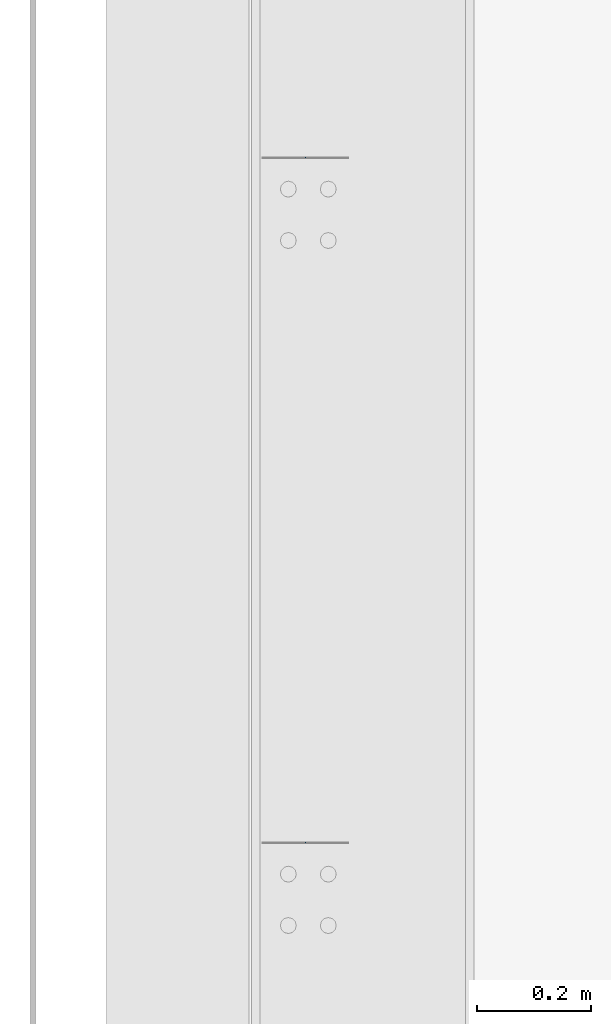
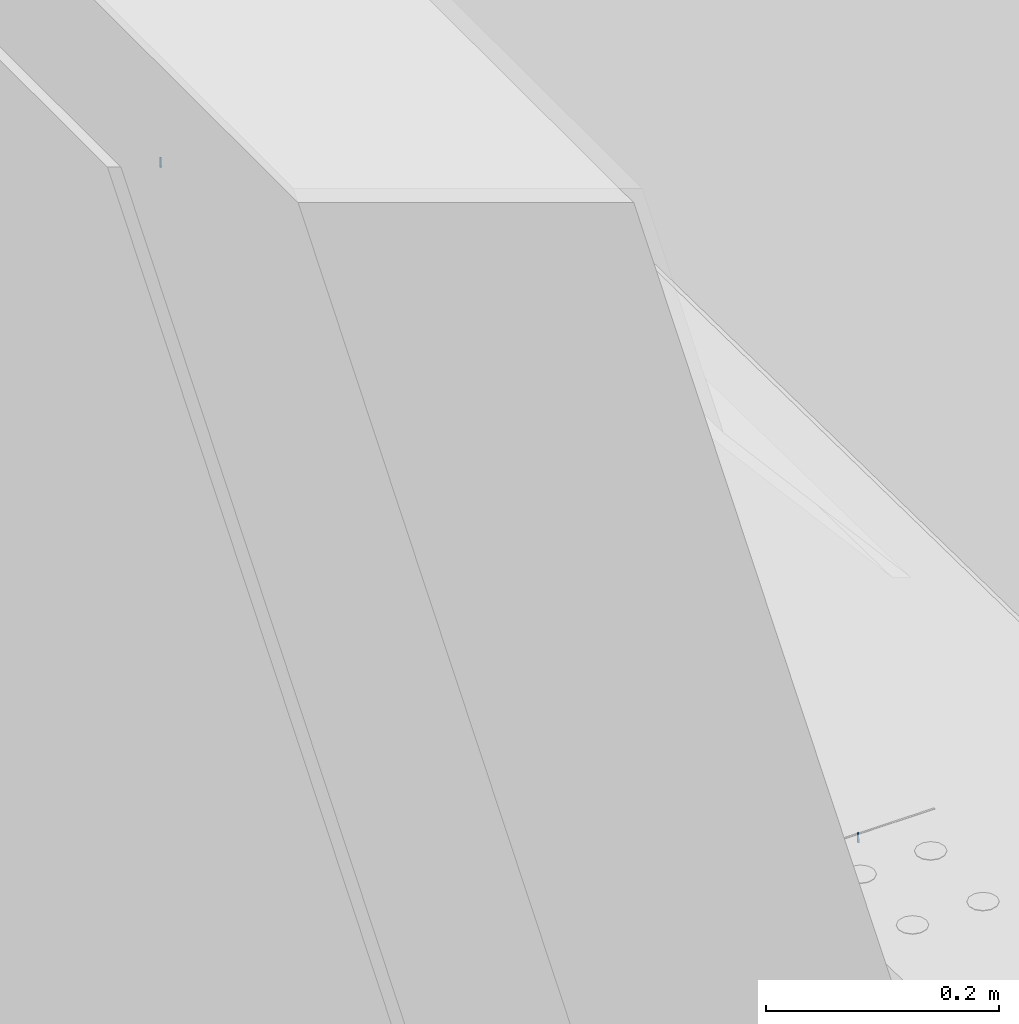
# One storey, part 68 of 186: 2 beams.
"""IFC4X3_ADD2 building model written with IfcOpenShell, lengths in millimetres."""

from ifc_helpers import new_model, si_unit, direction, frame, frame_2d, origin_with_axes, place, context, subcontext, project, spatial, rectangle, extrude, material, element, save


model = new_model("IFC4X3_ADD2")

# Units and contexts
model_context = context("Model", 3, precision=1e-05, world=origin_with_axes(), true_north=direction((0.0, 1.0)))
body_context = subcontext(model_context, "Body", "Model", "MODEL_VIEW")
ifc_project = project(units=[si_unit("LENGTHUNIT", "METRE", prefix="MILLI"), si_unit("AREAUNIT", "SQUARE_METRE"), si_unit("VOLUMEUNIT", "CUBIC_METRE"), si_unit("PLANEANGLEUNIT", "RADIAN"), si_unit("TIMEUNIT", "SECOND"), si_unit("MASSUNIT", "GRAM")], contexts=[model_context])

# Site, building, storey
site_placement = place(None, origin_with_axes())
site = spatial("IfcSite", under=ifc_project, at=site_placement, Name="Site", CompositionType="ELEMENT")
building_placement = place(site_placement, origin_with_axes())
building = spatial("IfcBuilding", under=site, at=building_placement, Name="IFC Building Story")
storey_placement = place(building_placement, frame((0.0, 0.0, 4370.0), z_axis=(0.0, 0.0, 1.0), x_axis=(1.0, 0.0, 0.0)))
storey = spatial("IfcBuildingStorey", under=building, at=storey_placement, Name="ETAGE 10 (1)", Elevation=4370.0)

# Beams
ifc_material = material(Name="STEEL/Accessory_invisible")
for number, where, z_axis, x_axis, name in (
    (1, (33301.183164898, -5716.168981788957, 3233.81521161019), (-1.0, 0.0, 0.0), (0.0, 0.01500926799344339, 0.9998873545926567), "ZW1"),
    (2, (33301.183164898, -4516.168218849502, 3215.17121161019), (-1.0, 0.0, 0.0), (0.0, 0.01500926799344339, 0.9998873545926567), "ZW1"),
):
    element("IfcBeam", number, at=place(storey_placement, frame(where, z_axis=z_axis, x_axis=x_axis)), inside=storey, material=ifc_material, Name=name, ObjectType="1*1 12", context=body_context, shape_type="SweptSolid", body=[
        extrude(rectangle(XDim=10.0, YDim=1.00000000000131, at=frame_2d((0.0, 5.95523630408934e-12), x_axis=(1.0, 0.0))), origin_with_axes(), (0.0, 0.0, 1.0), 1.0),
    ])

save(model, "model.ifc")
